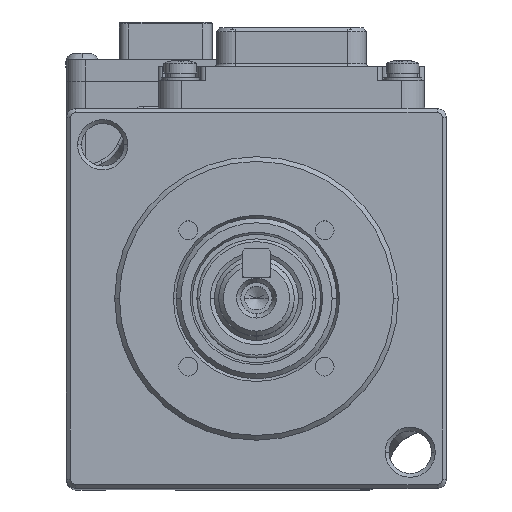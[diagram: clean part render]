
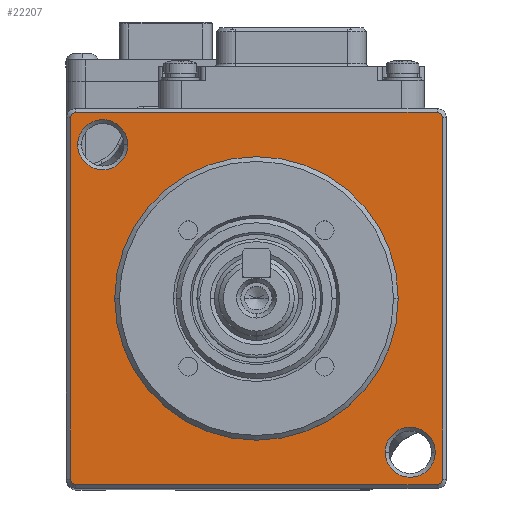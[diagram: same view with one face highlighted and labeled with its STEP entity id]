
A CAD part, top view. The second image highlights one B-rep face of the part: STEP entity #22207.
In plain terms, the highlighted planar face has unit normal (0, 0, 1).
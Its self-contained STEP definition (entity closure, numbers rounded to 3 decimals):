
#1937 = AXIS2_PLACEMENT_3D ( 'NONE', #27120, #5484, #60030 ) ;
#2406 = EDGE_LOOP ( 'NONE', ( #96719, #69346 ) ) ;
#2431 = VERTEX_POINT ( 'NONE', #101030 ) ;
#3638 = ORIENTED_EDGE ( 'NONE', *, *, #13342, .F. ) ;
#3849 = DIRECTION ( 'NONE',  ( 0., -1., 0. ) ) ;
#4820 = VERTEX_POINT ( 'NONE', #68931 ) ;
#4864 = LINE ( 'NONE', #36226, #42894 ) ;
#5437 = CARTESIAN_POINT ( 'NONE',  ( 16.263, -16.263, -47.73 ) ) ;
#5484 = DIRECTION ( 'NONE',  ( 0., 0., 1. ) ) ;
#6718 = CARTESIAN_POINT ( 'NONE',  ( 0., -15., -47.73 ) ) ;
#6761 = CARTESIAN_POINT ( 'NONE',  ( 19.1, -19.7, -47.73 ) ) ;
#6987 = CARTESIAN_POINT ( 'NONE',  ( 19.1, 19.1, -47.73 ) ) ;
#7597 = CARTESIAN_POINT ( 'NONE',  ( -19.1, 19.7, -47.73 ) ) ;
#7756 = FACE_BOUND ( 'NONE', #73487, .T. ) ;
#10085 = EDGE_CURVE ( 'NONE', #57342, #48575, #42762, .T. ) ;
#12929 = CIRCLE ( 'NONE', #65510, 2.65 ) ;
#13342 = EDGE_CURVE ( 'NONE', #48575, #57342, #12929, .T. ) ;
#13847 = EDGE_CURVE ( 'NONE', #4820, #73976, #46417, .T. ) ;
#15290 = EDGE_CURVE ( 'NONE', #82384, #2431, #75166, .T. ) ;
#15309 = CARTESIAN_POINT ( 'NONE',  ( -13.613, 16.263, -47.73 ) ) ;
#15532 = DIRECTION ( 'NONE',  ( 0., 0., 1. ) ) ;
#15835 = EDGE_CURVE ( 'NONE', #51583, #95575, #73510, .T. ) ;
#16419 = ORIENTED_EDGE ( 'NONE', *, *, #42694, .F. ) ;
#16752 = CIRCLE ( 'NONE', #1937, 2.65 ) ;
#17288 = DIRECTION ( 'NONE',  ( -1., 0., 0. ) ) ;
#17770 = DIRECTION ( 'NONE',  ( -1., 0., 0. ) ) ;
#19000 = DIRECTION ( 'NONE',  ( -1., 0., 0. ) ) ;
#19847 = DIRECTION ( 'NONE',  ( -1., 0., 0. ) ) ;
#20142 = CARTESIAN_POINT ( 'NONE',  ( 0., 19.7, -47.73 ) ) ;
#21276 = CARTESIAN_POINT ( 'NONE',  ( -19.7, -19.1, -47.73 ) ) ;
#21905 = DIRECTION ( 'NONE',  ( -1., 0., 0. ) ) ;
#21945 = CARTESIAN_POINT ( 'NONE',  ( -19.7, -15.5, -47.73 ) ) ;
#22207 = ADVANCED_FACE ( 'NONE', ( #101359, #7756, #53523, #23179 ), #54552, .T. ) ;
#23012 = EDGE_CURVE ( 'NONE', #30038, #39725, #16752, .T. ) ;
#23179 = FACE_BOUND ( 'NONE', #2406, .T. ) ;
#23642 = VECTOR ( 'NONE', #99636, 1000. ) ;
#24012 = ORIENTED_EDGE ( 'NONE', *, *, #42400, .F. ) ;
#24469 = CARTESIAN_POINT ( 'NONE',  ( 16.263, -16.263, -47.73 ) ) ;
#26723 = CARTESIAN_POINT ( 'NONE',  ( 0., -19.7, -47.73 ) ) ;
#27120 = CARTESIAN_POINT ( 'NONE',  ( -16.263, 16.263, -47.73 ) ) ;
#28054 = AXIS2_PLACEMENT_3D ( 'NONE', #41307, #96337, #35636 ) ;
#29561 = CARTESIAN_POINT ( 'NONE',  ( -18.913, 16.263, -47.73 ) ) ;
#29597 = ORIENTED_EDGE ( 'NONE', *, *, #13847, .F. ) ;
#30038 = VERTEX_POINT ( 'NONE', #15309 ) ;
#33141 = AXIS2_PLACEMENT_3D ( 'NONE', #54080, #66649, #61841 ) ;
#33199 = CARTESIAN_POINT ( 'NONE',  ( 13.613, -16.263, -47.73 ) ) ;
#33308 = CARTESIAN_POINT ( 'NONE',  ( -19.1, -19.1, -47.73 ) ) ;
#34630 = EDGE_CURVE ( 'NONE', #57408, #99823, #62097, .T. ) ;
#34742 = CIRCLE ( 'NONE', #33141, 0.6 ) ;
#34922 = DIRECTION ( 'NONE',  ( -1., 0., 0. ) ) ;
#35636 = DIRECTION ( 'NONE',  ( -1., 0., 0. ) ) ;
#36180 = AXIS2_PLACEMENT_3D ( 'NONE', #24469, #71789, #17770 ) ;
#36226 = CARTESIAN_POINT ( 'NONE',  ( 19.7, -15.5, -47.73 ) ) ;
#38192 = AXIS2_PLACEMENT_3D ( 'NONE', #77254, #15532, #46925 ) ;
#39725 = VERTEX_POINT ( 'NONE', #29561 ) ;
#41000 = DIRECTION ( 'NONE',  ( -1., 0., 0. ) ) ;
#41203 = CIRCLE ( 'NONE', #98717, 0.6 ) ;
#41307 = CARTESIAN_POINT ( 'NONE',  ( 0., 0., -47.73 ) ) ;
#41991 = ORIENTED_EDGE ( 'NONE', *, *, #15290, .F. ) ;
#42400 = EDGE_CURVE ( 'NONE', #2431, #64891, #41203, .T. ) ;
#42694 = EDGE_CURVE ( 'NONE', #64891, #58285, #4864, .T. ) ;
#42762 = CIRCLE ( 'NONE', #36180, 2.65 ) ;
#42894 = VECTOR ( 'NONE', #3849, 1000. ) ;
#44185 = CARTESIAN_POINT ( 'NONE',  ( 19.7, -19.1, -47.73 ) ) ;
#46417 = CIRCLE ( 'NONE', #38192, 15. ) ;
#46558 = EDGE_CURVE ( 'NONE', #73976, #4820, #67500, .T. ) ;
#46925 = DIRECTION ( 'NONE',  ( -1., 0., 0. ) ) ;
#47383 = EDGE_CURVE ( 'NONE', #39725, #30038, #79058, .T. ) ;
#48575 = VERTEX_POINT ( 'NONE', #33199 ) ;
#49853 = CIRCLE ( 'NONE', #90984, 0.6 ) ;
#51583 = VERTEX_POINT ( 'NONE', #6761 ) ;
#53523 = FACE_BOUND ( 'NONE', #63306, .T. ) ;
#54080 = CARTESIAN_POINT ( 'NONE',  ( -19.1, 19.1, -47.73 ) ) ;
#54430 = AXIS2_PLACEMENT_3D ( 'NONE', #6718, #92609, #85383 ) ;
#54552 = PLANE ( 'NONE',  #54430 ) ;
#57342 = VERTEX_POINT ( 'NONE', #83020 ) ;
#57408 = VERTEX_POINT ( 'NONE', #21276 ) ;
#58285 = VERTEX_POINT ( 'NONE', #44185 ) ;
#59749 = DIRECTION ( 'NONE',  ( 1., 0., 0. ) ) ;
#60030 = DIRECTION ( 'NONE',  ( -1., 0., 0. ) ) ;
#61471 = ORIENTED_EDGE ( 'NONE', *, *, #15835, .F. ) ;
#61841 = DIRECTION ( 'NONE',  ( -1., 0., 0. ) ) ;
#62097 = LINE ( 'NONE', #21945, #23642 ) ;
#62554 = EDGE_CURVE ( 'NONE', #99823, #82384, #34742, .T. ) ;
#63306 = EDGE_LOOP ( 'NONE', ( #3638, #96652 ) ) ;
#63697 = CARTESIAN_POINT ( 'NONE',  ( -19.7, 19.1, -47.73 ) ) ;
#64692 = DIRECTION ( 'NONE',  ( 0., 0., -1. ) ) ;
#64891 = VERTEX_POINT ( 'NONE', #101701 ) ;
#65510 = AXIS2_PLACEMENT_3D ( 'NONE', #5437, #90294, #19847 ) ;
#66404 = EDGE_CURVE ( 'NONE', #95575, #57408, #49853, .T. ) ;
#66649 = DIRECTION ( 'NONE',  ( 0., 0., -1. ) ) ;
#66752 = AXIS2_PLACEMENT_3D ( 'NONE', #90965, #89442, #34922 ) ;
#67500 = CIRCLE ( 'NONE', #28054, 15. ) ;
#68931 = CARTESIAN_POINT ( 'NONE',  ( 15., 0., -47.73 ) ) ;
#69346 = ORIENTED_EDGE ( 'NONE', *, *, #23012, .F. ) ;
#71789 = DIRECTION ( 'NONE',  ( 0., 0., 1. ) ) ;
#73487 = EDGE_LOOP ( 'NONE', ( #97289, #29597 ) ) ;
#73510 = LINE ( 'NONE', #26723, #96033 ) ;
#73976 = VERTEX_POINT ( 'NONE', #91659 ) ;
#75166 = LINE ( 'NONE', #20142, #99217 ) ;
#77254 = CARTESIAN_POINT ( 'NONE',  ( 0., 0., -47.73 ) ) ;
#79058 = CIRCLE ( 'NONE', #87281, 2.65 ) ;
#79526 = CARTESIAN_POINT ( 'NONE',  ( -16.263, 16.263, -47.73 ) ) ;
#80696 = CARTESIAN_POINT ( 'NONE',  ( -19.1, -19.7, -47.73 ) ) ;
#81056 = ORIENTED_EDGE ( 'NONE', *, *, #66404, .F. ) ;
#82065 = ORIENTED_EDGE ( 'NONE', *, *, #62554, .F. ) ;
#82260 = EDGE_CURVE ( 'NONE', #58285, #51583, #91311, .T. ) ;
#82384 = VERTEX_POINT ( 'NONE', #7597 ) ;
#83020 = CARTESIAN_POINT ( 'NONE',  ( 18.913, -16.263, -47.73 ) ) ;
#85383 = DIRECTION ( 'NONE',  ( 1., 0., 0. ) ) ;
#86651 = ORIENTED_EDGE ( 'NONE', *, *, #34630, .F. ) ;
#87281 = AXIS2_PLACEMENT_3D ( 'NONE', #79526, #87746, #17288 ) ;
#87746 = DIRECTION ( 'NONE',  ( 0., 0., 1. ) ) ;
#89442 = DIRECTION ( 'NONE',  ( 0., 0., -1. ) ) ;
#90294 = DIRECTION ( 'NONE',  ( 0., 0., 1. ) ) ;
#90965 = CARTESIAN_POINT ( 'NONE',  ( 19.1, -19.1, -47.73 ) ) ;
#90984 = AXIS2_PLACEMENT_3D ( 'NONE', #33308, #64692, #41000 ) ;
#91311 = CIRCLE ( 'NONE', #66752, 0.6 ) ;
#91659 = CARTESIAN_POINT ( 'NONE',  ( -15., 0., -47.73 ) ) ;
#92609 = DIRECTION ( 'NONE',  ( 0., 0., 1. ) ) ;
#92649 = ORIENTED_EDGE ( 'NONE', *, *, #82260, .F. ) ;
#95575 = VERTEX_POINT ( 'NONE', #80696 ) ;
#96033 = VECTOR ( 'NONE', #19000, 1000. ) ;
#96337 = DIRECTION ( 'NONE',  ( 0., 0., 1. ) ) ;
#96652 = ORIENTED_EDGE ( 'NONE', *, *, #10085, .F. ) ;
#96719 = ORIENTED_EDGE ( 'NONE', *, *, #47383, .F. ) ;
#97289 = ORIENTED_EDGE ( 'NONE', *, *, #46558, .F. ) ;
#98717 = AXIS2_PLACEMENT_3D ( 'NONE', #6987, #101619, #21905 ) ;
#99217 = VECTOR ( 'NONE', #59749, 1000. ) ;
#99636 = DIRECTION ( 'NONE',  ( 0., 1., 0. ) ) ;
#99823 = VERTEX_POINT ( 'NONE', #63697 ) ;
#100865 = EDGE_LOOP ( 'NONE', ( #24012, #41991, #82065, #86651, #81056, #61471, #92649, #16419 ) ) ;
#101030 = CARTESIAN_POINT ( 'NONE',  ( 19.1, 19.7, -47.73 ) ) ;
#101359 = FACE_OUTER_BOUND ( 'NONE', #100865, .T. ) ;
#101619 = DIRECTION ( 'NONE',  ( 0., 0., -1. ) ) ;
#101701 = CARTESIAN_POINT ( 'NONE',  ( 19.7, 19.1, -47.73 ) ) ;
